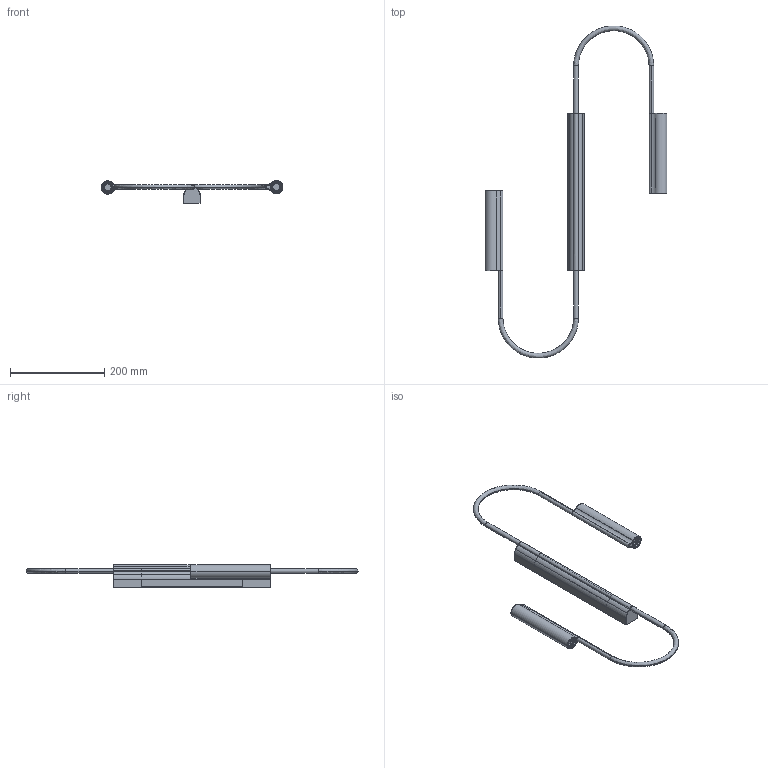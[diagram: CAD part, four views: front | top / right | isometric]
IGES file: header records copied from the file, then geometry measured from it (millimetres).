
Start section: SolidWorks IGES file using analytic representation for surfaces
Global section: file name: C:\Users\Joandita\Dropbox\Rakumba Industrial Design\PRODUCT\2 DEVELOPMENT\POP\CAD\LightWeight CAD\Pop - Wall Sconce.IGS; native system: SolidWorks 2017; preprocessor: SolidWorks 2017; author: Joandita; date: 240408.155344; units: millimetre
Bounding box: 385.95 x 704.67 x 48.51 mm (x, y, z)
Surface area: 223746.1 mm2 (no closed solid volume)
Topology: 0 solids, 0 shells, 225 faces, 2980 edges, 2980 vertices
Faces by surface type: bspline 122, revolution 103
